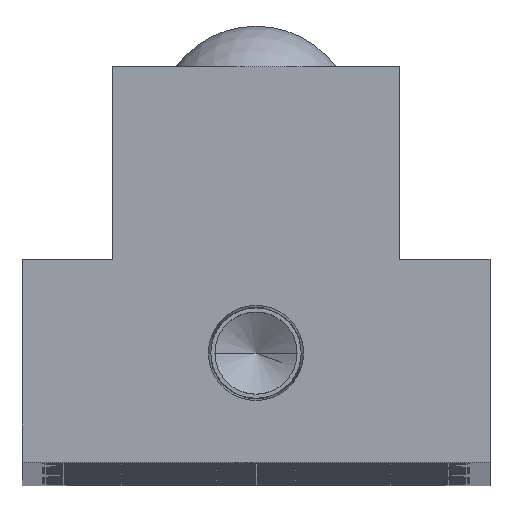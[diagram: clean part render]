
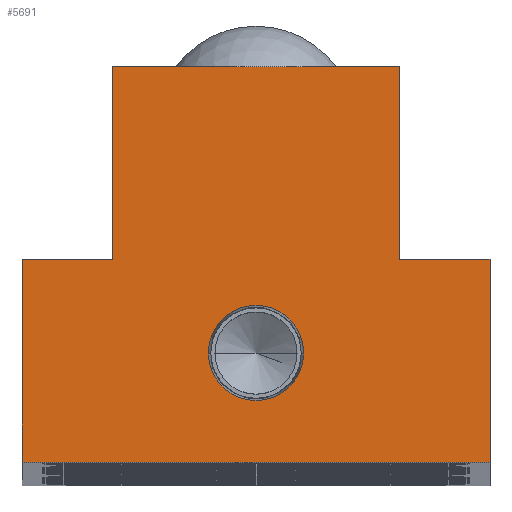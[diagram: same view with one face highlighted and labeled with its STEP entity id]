
A CAD part, top view. The second image highlights one B-rep face of the part: STEP entity #5691.
In plain terms, the highlighted planar face has unit normal (0, 0, 1).
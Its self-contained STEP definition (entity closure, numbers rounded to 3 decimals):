
#301 = CARTESIAN_POINT ( 'NONE',  ( 4.574, 10.5, 0. ) ) ;
#385 = VECTOR ( 'NONE', #12932, 1000. ) ;
#400 = VECTOR ( 'NONE', #1629, 1000. ) ;
#519 = CARTESIAN_POINT ( 'NONE',  ( 13.75, 38., 0. ) ) ;
#986 = LINE ( 'NONE', #18118, #400 ) ;
#1339 = DIRECTION ( 'NONE',  ( 0., -1., 0. ) ) ;
#1629 = DIRECTION ( 'NONE',  ( -1., 0., 0. ) ) ;
#1881 = CARTESIAN_POINT ( 'NONE',  ( -22.5, 19.5, 0. ) ) ;
#2157 = DIRECTION ( 'NONE',  ( 1., 0., 0. ) ) ;
#2211 = VERTEX_POINT ( 'NONE', #8727 ) ;
#2291 = VERTEX_POINT ( 'NONE', #14392 ) ;
#2352 = ORIENTED_EDGE ( 'NONE', *, *, #5495, .F. ) ;
#2704 = VERTEX_POINT ( 'NONE', #14551 ) ;
#2863 = CARTESIAN_POINT ( 'NONE',  ( -13.75, 19.5, 0. ) ) ;
#3285 = LINE ( 'NONE', #2863, #11973 ) ;
#3625 = EDGE_CURVE ( 'NONE', #9740, #20588, #986, .T. ) ;
#3652 = DIRECTION ( 'NONE',  ( 0., 0., 1. ) ) ;
#3928 = DIRECTION ( 'NONE',  ( 0., 1., 0. ) ) ;
#3939 = EDGE_LOOP ( 'NONE', ( #22374, #16485, #8197, #16790, #4837, #20625, #9883, #4510 ) ) ;
#4438 = EDGE_CURVE ( 'NONE', #2211, #2291, #3285, .T. ) ;
#4510 = ORIENTED_EDGE ( 'NONE', *, *, #14961, .T. ) ;
#4783 = LINE ( 'NONE', #1881, #385 ) ;
#4800 = VERTEX_POINT ( 'NONE', #301 ) ;
#4837 = ORIENTED_EDGE ( 'NONE', *, *, #17519, .T. ) ;
#5495 = EDGE_CURVE ( 'NONE', #4800, #11970, #21191, .T. ) ;
#5567 = ORIENTED_EDGE ( 'NONE', *, *, #13426, .F. ) ;
#5691 = ADVANCED_FACE ( 'NONE', ( #17244, #13007 ), #13383, .F. ) ;
#6392 = EDGE_CURVE ( 'NONE', #14522, #9987, #12149, .T. ) ;
#6635 = DIRECTION ( 'NONE',  ( -1., 0., 0. ) ) ;
#6734 = EDGE_LOOP ( 'NONE', ( #2352, #5567 ) ) ;
#6928 = CARTESIAN_POINT ( 'NONE',  ( -13.75, 38., 0. ) ) ;
#7058 = CARTESIAN_POINT ( 'NONE',  ( -22.5, 0., 0. ) ) ;
#7130 = VECTOR ( 'NONE', #2157, 1000. ) ;
#7279 = VECTOR ( 'NONE', #22418, 1000. ) ;
#7350 = DIRECTION ( 'NONE',  ( 0., 0., 1. ) ) ;
#8173 = DIRECTION ( 'NONE',  ( 0., 0., -1. ) ) ;
#8197 = ORIENTED_EDGE ( 'NONE', *, *, #21274, .T. ) ;
#8727 = CARTESIAN_POINT ( 'NONE',  ( -13.75, 19.5, 0. ) ) ;
#9160 = VECTOR ( 'NONE', #22794, 1000. ) ;
#9181 = LINE ( 'NONE', #11026, #18212 ) ;
#9740 = VERTEX_POINT ( 'NONE', #519 ) ;
#9883 = ORIENTED_EDGE ( 'NONE', *, *, #22708, .T. ) ;
#9987 = VERTEX_POINT ( 'NONE', #19777 ) ;
#11026 = CARTESIAN_POINT ( 'NONE',  ( -13.75, 38., 0. ) ) ;
#11459 = LINE ( 'NONE', #13210, #7130 ) ;
#11707 = CARTESIAN_POINT ( 'NONE',  ( 22.5, 19.5, 0. ) ) ;
#11970 = VERTEX_POINT ( 'NONE', #22361 ) ;
#11973 = VECTOR ( 'NONE', #6635, 1000. ) ;
#12149 = LINE ( 'NONE', #11707, #7279 ) ;
#12219 = AXIS2_PLACEMENT_3D ( 'NONE', #14632, #3652, #16439 ) ;
#12932 = DIRECTION ( 'NONE',  ( 0., -1., 0. ) ) ;
#12964 = AXIS2_PLACEMENT_3D ( 'NONE', #18997, #8173, #20800 ) ;
#13007 = FACE_OUTER_BOUND ( 'NONE', #3939, .T. ) ;
#13088 = CARTESIAN_POINT ( 'NONE',  ( 13.75, 38., 0. ) ) ;
#13210 = CARTESIAN_POINT ( 'NONE',  ( 22.5, 0., 0. ) ) ;
#13383 = PLANE ( 'NONE',  #12964 ) ;
#13426 = EDGE_CURVE ( 'NONE', #11970, #4800, #23273, .T. ) ;
#14392 = CARTESIAN_POINT ( 'NONE',  ( -22.5, 19.5, 0. ) ) ;
#14518 = LINE ( 'NONE', #21015, #9160 ) ;
#14522 = VERTEX_POINT ( 'NONE', #19785 ) ;
#14551 = CARTESIAN_POINT ( 'NONE',  ( 13.75, 19.5, 0. ) ) ;
#14608 = EDGE_CURVE ( 'NONE', #9987, #2704, #14518, .T. ) ;
#14632 = CARTESIAN_POINT ( 'NONE',  ( 0., 10.5, 0. ) ) ;
#14961 = EDGE_CURVE ( 'NONE', #15293, #14522, #11459, .T. ) ;
#15293 = VERTEX_POINT ( 'NONE', #7058 ) ;
#16439 = DIRECTION ( 'NONE',  ( 1., 0., 0. ) ) ;
#16485 = ORIENTED_EDGE ( 'NONE', *, *, #14608, .T. ) ;
#16790 = ORIENTED_EDGE ( 'NONE', *, *, #3625, .T. ) ;
#16952 = AXIS2_PLACEMENT_3D ( 'NONE', #18185, #7350, #20000 ) ;
#17244 = FACE_BOUND ( 'NONE', #6734, .T. ) ;
#17519 = EDGE_CURVE ( 'NONE', #20588, #2211, #9181, .T. ) ;
#17799 = VECTOR ( 'NONE', #3928, 1000. ) ;
#18118 = CARTESIAN_POINT ( 'NONE',  ( -13.75, 38., 0. ) ) ;
#18185 = CARTESIAN_POINT ( 'NONE',  ( 0., 10.5, 0. ) ) ;
#18212 = VECTOR ( 'NONE', #1339, 1000. ) ;
#18997 = CARTESIAN_POINT ( 'NONE',  ( 0., 0., 0. ) ) ;
#19777 = CARTESIAN_POINT ( 'NONE',  ( 22.5, 19.5, 0. ) ) ;
#19785 = CARTESIAN_POINT ( 'NONE',  ( 22.5, 0., 0. ) ) ;
#20000 = DIRECTION ( 'NONE',  ( 1., 0., 0. ) ) ;
#20588 = VERTEX_POINT ( 'NONE', #6928 ) ;
#20625 = ORIENTED_EDGE ( 'NONE', *, *, #4438, .T. ) ;
#20800 = DIRECTION ( 'NONE',  ( -1., 0., 0. ) ) ;
#21015 = CARTESIAN_POINT ( 'NONE',  ( 22.5, 19.5, 0. ) ) ;
#21191 = CIRCLE ( 'NONE', #12219, 4.574 ) ;
#21274 = EDGE_CURVE ( 'NONE', #2704, #9740, #22555, .T. ) ;
#22361 = CARTESIAN_POINT ( 'NONE',  ( -4.574, 10.5, 0. ) ) ;
#22374 = ORIENTED_EDGE ( 'NONE', *, *, #6392, .T. ) ;
#22418 = DIRECTION ( 'NONE',  ( 0., 1., 0. ) ) ;
#22555 = LINE ( 'NONE', #13088, #17799 ) ;
#22708 = EDGE_CURVE ( 'NONE', #2291, #15293, #4783, .T. ) ;
#22794 = DIRECTION ( 'NONE',  ( -1., 0., 0. ) ) ;
#23273 = CIRCLE ( 'NONE', #16952, 4.574 ) ;
